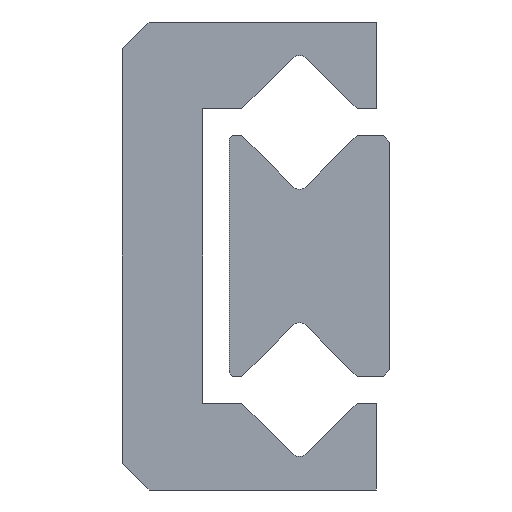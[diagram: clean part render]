
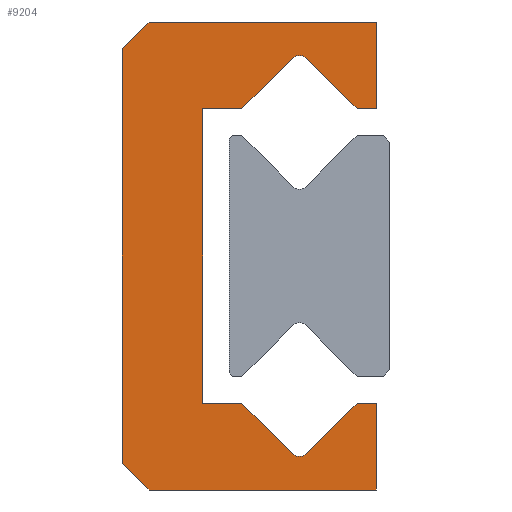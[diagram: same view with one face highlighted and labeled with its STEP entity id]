
A CAD part, left-side view. The second image highlights one B-rep face of the part: STEP entity #9204.
In plain terms, the highlighted planar face has unit normal (-1, 0, 0).
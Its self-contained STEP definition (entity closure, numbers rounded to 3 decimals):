
#296=CIRCLE('',#9991,0.15);
#300=CIRCLE('',#10001,0.15);
#1530=ORIENTED_EDGE('',*,*,#3858,.F.);
#1531=ORIENTED_EDGE('',*,*,#4296,.F.);
#1532=ORIENTED_EDGE('',*,*,#4291,.F.);
#1533=ORIENTED_EDGE('',*,*,#4288,.F.);
#1534=ORIENTED_EDGE('',*,*,#4285,.F.);
#1535=ORIENTED_EDGE('',*,*,#4282,.F.);
#1536=ORIENTED_EDGE('',*,*,#4279,.F.);
#1537=ORIENTED_EDGE('',*,*,#4276,.T.);
#1538=ORIENTED_EDGE('',*,*,#4273,.F.);
#1539=ORIENTED_EDGE('',*,*,#4270,.F.);
#1540=ORIENTED_EDGE('',*,*,#4267,.F.);
#1541=ORIENTED_EDGE('',*,*,#4262,.F.);
#1542=ORIENTED_EDGE('',*,*,#4259,.F.);
#1543=ORIENTED_EDGE('',*,*,#4256,.T.);
#1544=ORIENTED_EDGE('',*,*,#4253,.F.);
#1545=ORIENTED_EDGE('',*,*,#4250,.F.);
#1546=ORIENTED_EDGE('',*,*,#4247,.F.);
#1547=ORIENTED_EDGE('',*,*,#3862,.F.);
#3858=EDGE_CURVE('',#5272,#5273,#6234,.T.);
#3862=EDGE_CURVE('',#5273,#5276,#6238,.T.);
#4247=EDGE_CURVE('',#5276,#5660,#6375,.T.);
#4250=EDGE_CURVE('',#5660,#5662,#6378,.T.);
#4253=EDGE_CURVE('',#5662,#5664,#6381,.T.);
#4256=EDGE_CURVE('',#5666,#5664,#296,.T.);
#4259=EDGE_CURVE('',#5666,#5668,#6385,.T.);
#4262=EDGE_CURVE('',#5668,#5670,#6388,.T.);
#4267=EDGE_CURVE('',#5670,#5674,#6391,.T.);
#4270=EDGE_CURVE('',#5674,#5676,#6394,.T.);
#4273=EDGE_CURVE('',#5676,#5678,#6397,.T.);
#4276=EDGE_CURVE('',#5680,#5678,#300,.T.);
#4279=EDGE_CURVE('',#5680,#5682,#6401,.T.);
#4282=EDGE_CURVE('',#5682,#5684,#6404,.T.);
#4285=EDGE_CURVE('',#5684,#5686,#6407,.T.);
#4288=EDGE_CURVE('',#5686,#5688,#6410,.T.);
#4291=EDGE_CURVE('',#5688,#5690,#6413,.T.);
#4296=EDGE_CURVE('',#5690,#5272,#6416,.T.);
#5272=VERTEX_POINT('',#14013);
#5273=VERTEX_POINT('',#14014);
#5276=VERTEX_POINT('',#14022);
#5660=VERTEX_POINT('',#14792);
#5662=VERTEX_POINT('',#14798);
#5664=VERTEX_POINT('',#14804);
#5666=VERTEX_POINT('',#14810);
#5668=VERTEX_POINT('',#14816);
#5670=VERTEX_POINT('',#14822);
#5674=VERTEX_POINT('',#14832);
#5676=VERTEX_POINT('',#14838);
#5678=VERTEX_POINT('',#14844);
#5680=VERTEX_POINT('',#14850);
#5682=VERTEX_POINT('',#14856);
#5684=VERTEX_POINT('',#14862);
#5686=VERTEX_POINT('',#14868);
#5688=VERTEX_POINT('',#14874);
#5690=VERTEX_POINT('',#14880);
#6234=LINE('',#14012,#7058);
#6238=LINE('',#14021,#7062);
#6375=LINE('',#14791,#7199);
#6378=LINE('',#14797,#7202);
#6381=LINE('',#14803,#7205);
#6385=LINE('',#14815,#7209);
#6388=LINE('',#14821,#7212);
#6391=LINE('',#14831,#7215);
#6394=LINE('',#14837,#7218);
#6397=LINE('',#14843,#7221);
#6401=LINE('',#14855,#7225);
#6404=LINE('',#14861,#7228);
#6407=LINE('',#14867,#7231);
#6410=LINE('',#14873,#7234);
#6413=LINE('',#14879,#7237);
#6416=LINE('',#14889,#7240);
#7058=VECTOR('',#10943,1000.);
#7062=VECTOR('',#10949,1000.);
#7199=VECTOR('',#11584,1000.);
#7202=VECTOR('',#11589,1000.);
#7205=VECTOR('',#11594,1000.);
#7209=VECTOR('',#11606,1000.);
#7212=VECTOR('',#11611,1000.);
#7215=VECTOR('',#11620,1000.);
#7218=VECTOR('',#11625,1000.);
#7221=VECTOR('',#11630,1000.);
#7225=VECTOR('',#11642,1000.);
#7228=VECTOR('',#11647,1000.);
#7231=VECTOR('',#11652,1000.);
#7234=VECTOR('',#11657,1000.);
#7237=VECTOR('',#11662,1000.);
#7240=VECTOR('',#11671,1000.);
#7916=EDGE_LOOP('',(#1530,#1531,#1532,#1533,#1534,#1535,#1536,#1537,#1538,
#1539,#1540,#1541,#1542,#1543,#1544,#1545,#1546,#1547));
#8474=FACE_BOUND('',#7916,.T.);
#8987=PLANE('',#10012);
#9204=ADVANCED_FACE('',(#8474),#8987,.F.);
#9991=AXIS2_PLACEMENT_3D('',#14809,#11599,#11600);
#10001=AXIS2_PLACEMENT_3D('',#14849,#11635,#11636);
#10012=AXIS2_PLACEMENT_3D('',#14892,#11675,#11676);
#10943=DIRECTION('',(0.,-0.707,0.707));
#10949=DIRECTION('',(0.,-1.,0.));
#11584=DIRECTION('',(0.,0.,-1.));
#11589=DIRECTION('',(0.,1.,0.));
#11594=DIRECTION('',(0.,0.707,0.707));
#11599=DIRECTION('',(1.,0.,0.));
#11600=DIRECTION('',(0.,0.,-1.));
#11606=DIRECTION('',(0.,0.707,-0.707));
#11611=DIRECTION('',(0.,1.,0.));
#11620=DIRECTION('',(0.,0.,-1.));
#11625=DIRECTION('',(0.,-1.,0.));
#11630=DIRECTION('',(0.,-0.707,-0.707));
#11635=DIRECTION('',(1.,0.,0.));
#11636=DIRECTION('',(0.,0.,-1.));
#11642=DIRECTION('',(0.,-0.707,0.707));
#11647=DIRECTION('',(0.,-1.,0.));
#11652=DIRECTION('',(0.,0.,-1.));
#11657=DIRECTION('',(0.,1.,0.));
#11662=DIRECTION('',(0.,0.707,0.707));
#11671=DIRECTION('',(0.,0.,1.));
#11675=DIRECTION('',(1.,0.,0.));
#11676=DIRECTION('',(0.,0.,-1.));
#14012=CARTESIAN_POINT('',(-7.5,3.8,3.1));
#14013=CARTESIAN_POINT('',(-7.5,3.8,3.1));
#14014=CARTESIAN_POINT('',(-7.5,3.4,3.5));
#14021=CARTESIAN_POINT('',(-7.5,3.4,3.5));
#14022=CARTESIAN_POINT('',(-7.5,0.,3.5));
#14791=CARTESIAN_POINT('',(-7.5,0.,3.5));
#14792=CARTESIAN_POINT('',(-7.5,0.,2.2));
#14797=CARTESIAN_POINT('',(-7.5,0.,2.2));
#14798=CARTESIAN_POINT('',(-7.5,0.289,2.2));
#14803=CARTESIAN_POINT('',(-7.5,0.289,2.2));
#14804=CARTESIAN_POINT('',(-7.5,1.044,2.955));
#14809=CARTESIAN_POINT('',(-7.5,1.15,2.849));
#14810=CARTESIAN_POINT('',(-7.5,1.256,2.955));
#14815=CARTESIAN_POINT('',(-7.5,1.256,2.955));
#14816=CARTESIAN_POINT('',(-7.5,2.011,2.2));
#14821=CARTESIAN_POINT('',(-7.5,2.011,2.2));
#14822=CARTESIAN_POINT('',(-7.5,2.6,2.2));
#14831=CARTESIAN_POINT('',(-7.5,2.6,2.2));
#14832=CARTESIAN_POINT('',(-7.5,2.6,-2.2));
#14837=CARTESIAN_POINT('',(-7.5,2.6,-2.2));
#14838=CARTESIAN_POINT('',(-7.5,2.011,-2.2));
#14843=CARTESIAN_POINT('',(-7.5,2.011,-2.2));
#14844=CARTESIAN_POINT('',(-7.5,1.256,-2.955));
#14849=CARTESIAN_POINT('',(-7.5,1.15,-2.849));
#14850=CARTESIAN_POINT('',(-7.5,1.044,-2.955));
#14855=CARTESIAN_POINT('',(-7.5,1.044,-2.955));
#14856=CARTESIAN_POINT('',(-7.5,0.289,-2.2));
#14861=CARTESIAN_POINT('',(-7.5,0.289,-2.2));
#14862=CARTESIAN_POINT('',(-7.5,0.,-2.2));
#14867=CARTESIAN_POINT('',(-7.5,0.,-2.2));
#14868=CARTESIAN_POINT('',(-7.5,0.,-3.5));
#14873=CARTESIAN_POINT('',(-7.5,0.,-3.5));
#14874=CARTESIAN_POINT('',(-7.5,3.4,-3.5));
#14879=CARTESIAN_POINT('',(-7.5,3.4,-3.5));
#14880=CARTESIAN_POINT('',(-7.5,3.8,-3.1));
#14889=CARTESIAN_POINT('',(-7.5,3.8,-3.1));
#14892=CARTESIAN_POINT('',(-7.5,1.15,2.849));
